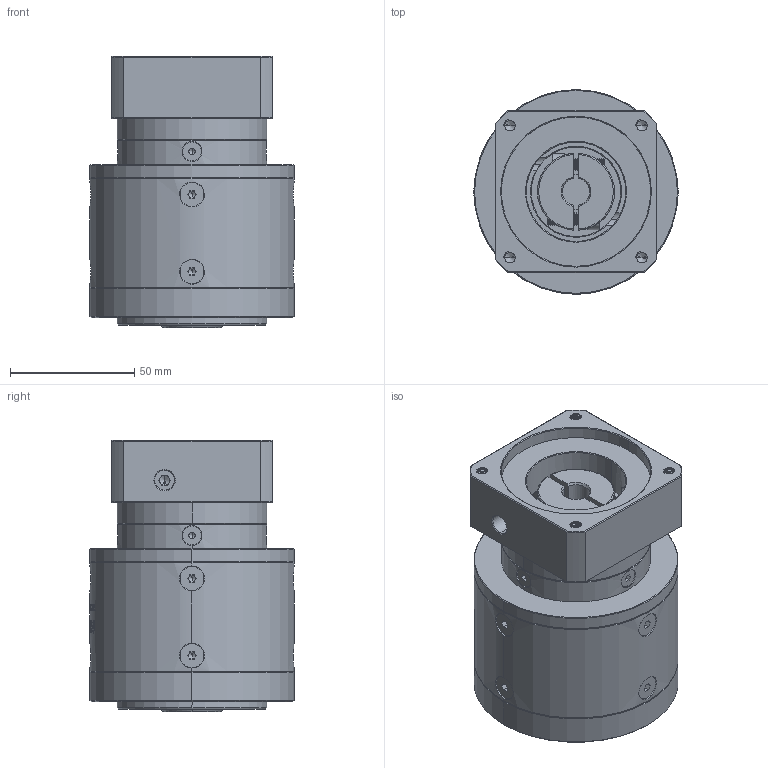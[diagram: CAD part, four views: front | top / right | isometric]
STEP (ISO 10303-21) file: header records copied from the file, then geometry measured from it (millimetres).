
FILE_DESCRIPTION (( 'STEP AP214' ), '1' );
FILE_NAME ('ZE80-K15-L2-11-60-75-M5.step', '2022-05-08T06:06:22', ( '' ), ( 'Microsoft' ), 'SwSTEP 2.0', 'SolidWorks 2016', '' );
FILE_SCHEMA (( 'AUTOMOTIVE_DESIGN' ));
Length unit declared in the file: millimetre
Products named in the file (1): ZE80-K15-L2-11-60-75-M5
Bounding box: 82 x 82 x 109 mm (x, y, z)
Volume: 439298.1 mm3; surface area: 65570.1 mm2
Topology: 18 solids, 18 shells, 2082 faces, 5478 edges, 3487 vertices
Faces by surface type: plane 941, cylinder 490, bspline 330, cone 307, torus 14
Entity records: 115485 total; most frequent: CARTESIAN_POINT 45220, ORIENTED_EDGE 10868, DIRECTION 8492, EDGE_CURVE 5434, VERTEX_POINT 3487, LINE 2926, VECTOR 2926, AXIS2_PLACEMENT_3D 2783
